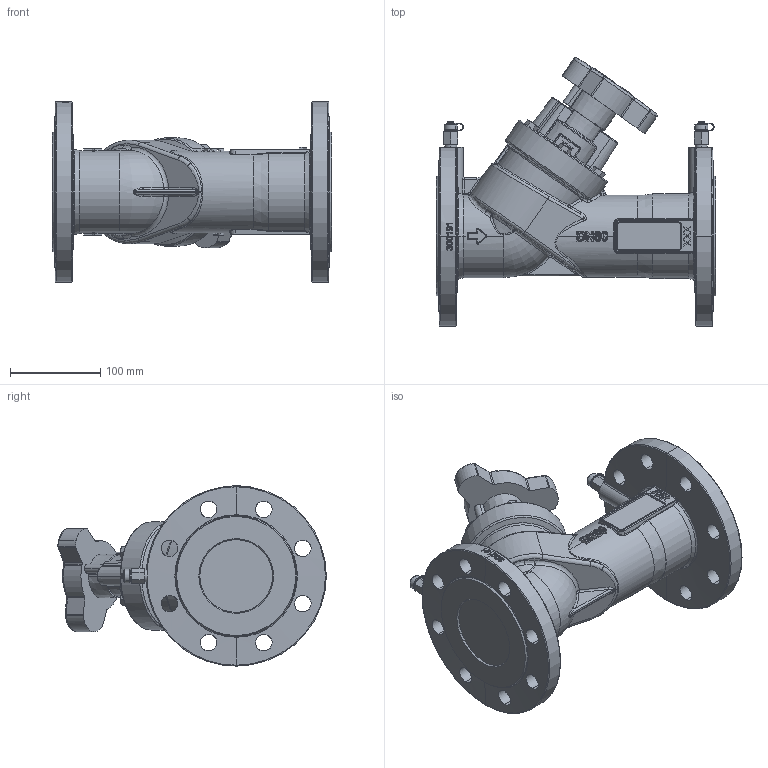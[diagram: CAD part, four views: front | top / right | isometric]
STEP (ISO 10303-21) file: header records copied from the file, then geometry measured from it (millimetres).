
FILE_DESCRIPTION (( 'STEP AP203' ), '1' );
FILE_NAME ('EKOFLUX.S008016P.STEP', '2021-09-14T06:46:02', ( '' ), ( '' ), 'SwSTEP 2.0', 'SolidWorks 2017', '' );
FILE_SCHEMA (( 'CONFIG_CONTROL_DESIGN' ));
Length unit declared in the file: millimetre
Products named in the file (1): EKOFLUX.S008016P
Bounding box: 310 x 298.05 x 200 mm (x, y, z)
Volume: 4068723.3 mm3; surface area: 311850.1 mm2
Topology: 1 solids, 21 shells, 1681 faces, 4220 edges, 2631 vertices
Faces by surface type: plane 519, bspline 501, cylinder 327, cone 211, torus 97, sphere 26
Entity records: 77946 total; most frequent: CARTESIAN_POINT 42178, ORIENTED_EDGE 8366, DIRECTION 5979, EDGE_CURVE 4183, VERTEX_POINT 2627, AXIS2_PLACEMENT_3D 2254, EDGE_LOOP 1812, FACE_OUTER_BOUND 1681
